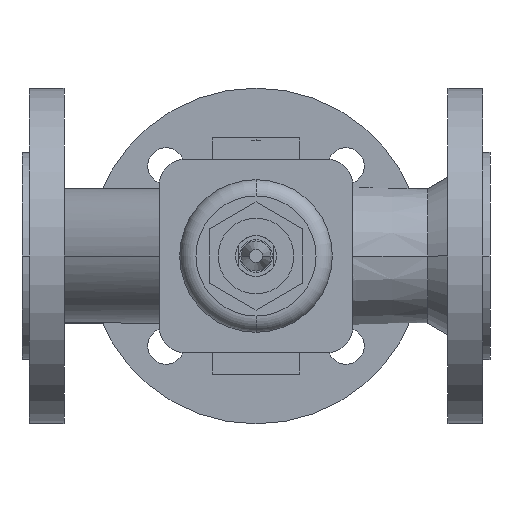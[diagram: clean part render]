
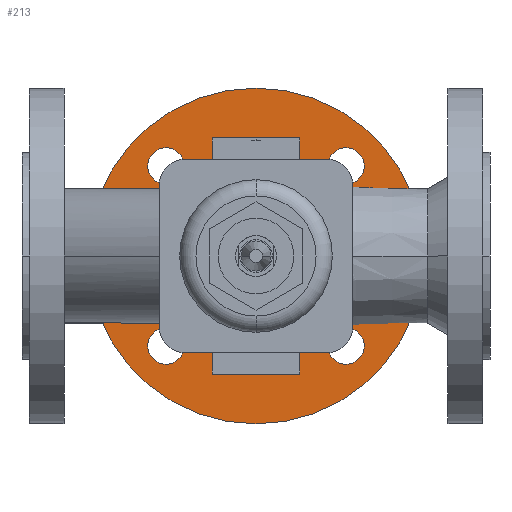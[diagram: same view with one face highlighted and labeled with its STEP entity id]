
A CAD part, front view. The second image highlights one B-rep face of the part: STEP entity #213.
In plain terms, the highlighted planar face has unit normal (0, -1, 0).
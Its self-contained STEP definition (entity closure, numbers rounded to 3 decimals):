
#213 = ADVANCED_FACE( '', ( #530, #531, #532, #533, #534, #535 ), #536, .T. );
#530 = FACE_OUTER_BOUND( '', #856, .T. );
#531 = FACE_BOUND( '', #857, .T. );
#532 = FACE_BOUND( '', #858, .T. );
#533 = FACE_BOUND( '', #859, .T. );
#534 = FACE_BOUND( '', #860, .T. );
#535 = FACE_BOUND( '', #861, .T. );
#536 = PLANE( '', #862 );
#856 = EDGE_LOOP( '', ( #1953, #1954 ) );
#857 = EDGE_LOOP( '', ( #1955, #1956 ) );
#858 = EDGE_LOOP( '', ( #1957, #1958 ) );
#859 = EDGE_LOOP( '', ( #1959, #1960 ) );
#860 = EDGE_LOOP( '', ( #1961, #1962 ) );
#861 = EDGE_LOOP( '', ( #1963, #1964 ) );
#862 = AXIS2_PLACEMENT_3D( '', #1965, #1966, #1967 );
#1953 = ORIENTED_EDGE( '', *, *, #2343, .F. );
#1954 = ORIENTED_EDGE( '', *, *, #2013, .F. );
#1955 = ORIENTED_EDGE( '', *, *, #2342, .F. );
#1956 = ORIENTED_EDGE( '', *, *, #2017, .F. );
#1957 = ORIENTED_EDGE( '', *, *, #2341, .F. );
#1958 = ORIENTED_EDGE( '', *, *, #2021, .F. );
#1959 = ORIENTED_EDGE( '', *, *, #2340, .F. );
#1960 = ORIENTED_EDGE( '', *, *, #2025, .F. );
#1961 = ORIENTED_EDGE( '', *, *, #2339, .F. );
#1962 = ORIENTED_EDGE( '', *, *, #2029, .F. );
#1963 = ORIENTED_EDGE( '', *, *, #2040, .F. );
#1964 = ORIENTED_EDGE( '', *, *, #2283, .F. );
#1965 = CARTESIAN_POINT( '', ( 67.5, 79.35, 0. ) );
#1966 = DIRECTION( '', ( 0., -1., 0. ) );
#1967 = DIRECTION( '', ( -1., 0., 0. ) );
#2013 = EDGE_CURVE( '', #2382, #2378, #2384, .T. );
#2017 = EDGE_CURVE( '', #2390, #2386, #2392, .T. );
#2021 = EDGE_CURVE( '', #2398, #2394, #2400, .T. );
#2025 = EDGE_CURVE( '', #2406, #2402, #2408, .T. );
#2029 = EDGE_CURVE( '', #2414, #2410, #2416, .T. );
#2040 = EDGE_CURVE( '', #2434, #2437, #2438, .T. );
#2283 = EDGE_CURVE( '', #2437, #2434, #2837, .T. );
#2339 = EDGE_CURVE( '', #2410, #2414, #2922, .T. );
#2340 = EDGE_CURVE( '', #2402, #2406, #2923, .T. );
#2341 = EDGE_CURVE( '', #2394, #2398, #2924, .T. );
#2342 = EDGE_CURVE( '', #2386, #2390, #2925, .T. );
#2343 = EDGE_CURVE( '', #2378, #2382, #2926, .T. );
#2378 = VERTEX_POINT( '', #3011 );
#2382 = VERTEX_POINT( '', #3016 );
#2384 = CIRCLE( '', #3019, 82.5 );
#2386 = VERTEX_POINT( '', #3021 );
#2390 = VERTEX_POINT( '', #3026 );
#2392 = CIRCLE( '', #3029, 9. );
#2394 = VERTEX_POINT( '', #3031 );
#2398 = VERTEX_POINT( '', #3036 );
#2400 = CIRCLE( '', #3039, 9. );
#2402 = VERTEX_POINT( '', #3041 );
#2406 = VERTEX_POINT( '', #3046 );
#2408 = CIRCLE( '', #3049, 9. );
#2410 = VERTEX_POINT( '', #3051 );
#2414 = VERTEX_POINT( '', #3056 );
#2416 = CIRCLE( '', #3059, 9. );
#2434 = VERTEX_POINT( '', #3225 );
#2437 = VERTEX_POINT( '', #3229 );
#2438 = CIRCLE( '', #3230, 44. );
#2837 = CIRCLE( '', #3996, 44. );
#2922 = CIRCLE( '', #4153, 9. );
#2923 = CIRCLE( '', #4154, 9. );
#2924 = CIRCLE( '', #4155, 9. );
#2925 = CIRCLE( '', #4156, 9. );
#2926 = CIRCLE( '', #4157, 82.5 );
#3011 = CARTESIAN_POINT( '', ( 197.5, 79.35, 0. ) );
#3016 = CARTESIAN_POINT( '', ( 32.5, 79.35, 0. ) );
#3019 = AXIS2_PLACEMENT_3D( '', #4196, #4197, #4198 );
#3021 = CARTESIAN_POINT( '', ( 168.194, 79.35, 44.194 ) );
#3026 = CARTESIAN_POINT( '', ( 150.194, 79.35, 44.194 ) );
#3029 = AXIS2_PLACEMENT_3D( '', #4204, #4205, #4206 );
#3031 = CARTESIAN_POINT( '', ( 168.194, 79.35, -44.194 ) );
#3036 = CARTESIAN_POINT( '', ( 150.194, 79.35, -44.194 ) );
#3039 = AXIS2_PLACEMENT_3D( '', #4212, #4213, #4214 );
#3041 = CARTESIAN_POINT( '', ( 79.806, 79.35, 44.194 ) );
#3046 = CARTESIAN_POINT( '', ( 61.806, 79.35, 44.194 ) );
#3049 = AXIS2_PLACEMENT_3D( '', #4220, #4221, #4222 );
#3051 = CARTESIAN_POINT( '', ( 79.806, 79.35, -44.194 ) );
#3056 = CARTESIAN_POINT( '', ( 61.806, 79.35, -44.194 ) );
#3059 = AXIS2_PLACEMENT_3D( '', #4228, #4229, #4230 );
#3225 = CARTESIAN_POINT( '', ( 71., 79.35, 0. ) );
#3229 = CARTESIAN_POINT( '', ( 159., 79.35, 0. ) );
#3230 = AXIS2_PLACEMENT_3D( '', #4245, #4246, #4247 );
#3996 = AXIS2_PLACEMENT_3D( '', #4734, #4735, #4736 );
#4153 = AXIS2_PLACEMENT_3D( '', #4812, #4813, #4814 );
#4154 = AXIS2_PLACEMENT_3D( '', #4815, #4816, #4817 );
#4155 = AXIS2_PLACEMENT_3D( '', #4818, #4819, #4820 );
#4156 = AXIS2_PLACEMENT_3D( '', #4821, #4822, #4823 );
#4157 = AXIS2_PLACEMENT_3D( '', #4824, #4825, #4826 );
#4196 = CARTESIAN_POINT( '', ( 115., 79.35, 0. ) );
#4197 = DIRECTION( '', ( 0., 1., 0. ) );
#4198 = DIRECTION( '', ( 1., 0., 0. ) );
#4204 = CARTESIAN_POINT( '', ( 159.194, 79.35, 44.194 ) );
#4205 = DIRECTION( '', ( 0., -1., 0. ) );
#4206 = DIRECTION( '', ( 1., 0., 0. ) );
#4212 = CARTESIAN_POINT( '', ( 159.194, 79.35, -44.194 ) );
#4213 = DIRECTION( '', ( 0., -1., 0. ) );
#4214 = DIRECTION( '', ( 1., 0., 0. ) );
#4220 = CARTESIAN_POINT( '', ( 70.806, 79.35, 44.194 ) );
#4221 = DIRECTION( '', ( 0., -1., 0. ) );
#4222 = DIRECTION( '', ( 1., 0., 0. ) );
#4228 = CARTESIAN_POINT( '', ( 70.806, 79.35, -44.194 ) );
#4229 = DIRECTION( '', ( 0., -1., 0. ) );
#4230 = DIRECTION( '', ( 1., 0., 0. ) );
#4245 = CARTESIAN_POINT( '', ( 115., 79.35, 0. ) );
#4246 = DIRECTION( '', ( 0., -1., 0. ) );
#4247 = DIRECTION( '', ( -1., 0., 0. ) );
#4734 = CARTESIAN_POINT( '', ( 115., 79.35, 0. ) );
#4735 = DIRECTION( '', ( 0., -1., 0. ) );
#4736 = DIRECTION( '', ( -1., 0., 0. ) );
#4812 = CARTESIAN_POINT( '', ( 70.806, 79.35, -44.194 ) );
#4813 = DIRECTION( '', ( 0., -1., 0. ) );
#4814 = DIRECTION( '', ( 1., 0., 0. ) );
#4815 = CARTESIAN_POINT( '', ( 70.806, 79.35, 44.194 ) );
#4816 = DIRECTION( '', ( 0., -1., 0. ) );
#4817 = DIRECTION( '', ( 1., 0., 0. ) );
#4818 = CARTESIAN_POINT( '', ( 159.194, 79.35, -44.194 ) );
#4819 = DIRECTION( '', ( 0., -1., 0. ) );
#4820 = DIRECTION( '', ( 1., 0., 0. ) );
#4821 = CARTESIAN_POINT( '', ( 159.194, 79.35, 44.194 ) );
#4822 = DIRECTION( '', ( 0., -1., 0. ) );
#4823 = DIRECTION( '', ( 1., 0., 0. ) );
#4824 = CARTESIAN_POINT( '', ( 115., 79.35, 0. ) );
#4825 = DIRECTION( '', ( 0., 1., 0. ) );
#4826 = DIRECTION( '', ( 1., 0., 0. ) );
